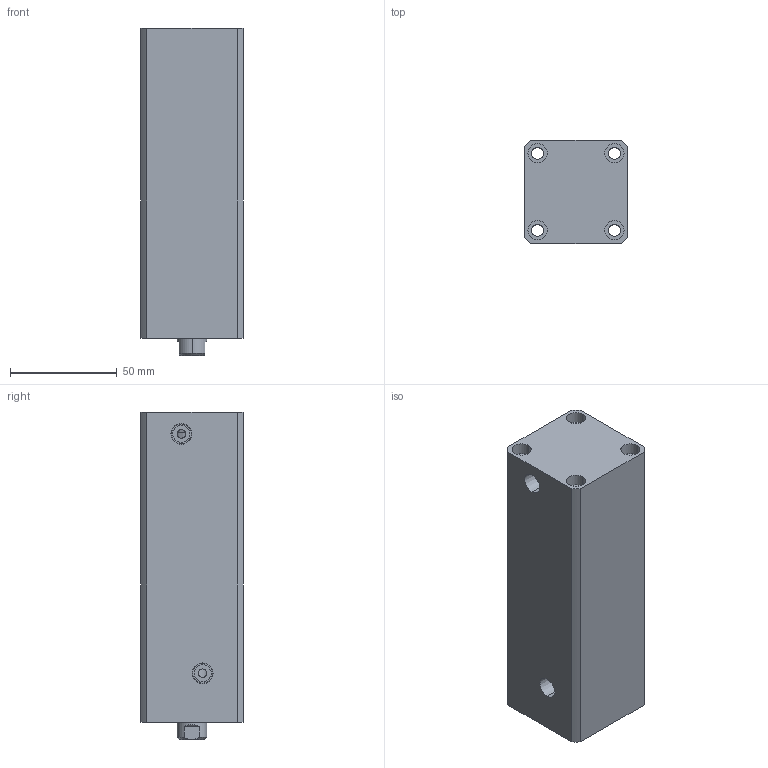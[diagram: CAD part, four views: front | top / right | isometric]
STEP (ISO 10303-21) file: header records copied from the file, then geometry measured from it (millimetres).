
FILE_DESCRIPTION (( 'STEP AP214' ), '1' );
FILE_NAME ('chtb-sd25x100n_asm.STEP', '2018-05-22T12:54:21', ( 'Windows' ), ( 'Microsoft' ), 'SwSTEP 2.0', 'SolidWorks 2015', '' );
FILE_SCHEMA (( 'AUTOMOTIVE_DESIGN' ));
Length unit declared in the file: millimetre
Products named in the file (4): CHTB-25QG; chtb-sd25x100n_asm; CHTB-SD25X100NHSG; CHTB-SD25X100NBT
Assembly tree (3 placements, depth 2):
  chtb-sd25x100n_asm
    CHTB-25QG
    CHTB-SD25X100NBT
    CHTB-SD25X100NHSG
Bounding box: 48 x 48 x 153 mm (x, y, z)
Volume: 279604.3 mm3; surface area: 67579.4 mm2
Topology: 3 solids, 3 shells, 144 faces, 377 edges, 257 vertices
Faces by surface type: cylinder 85, plane 36, cone 13, bspline 10
Entity records: 7940 total; most frequent: CARTESIAN_POINT 4299, ORIENTED_EDGE 742, DIRECTION 671, EDGE_CURVE 371, AXIS2_PLACEMENT_3D 278, VERTEX_POINT 257, EDGE_LOOP 182, ADVANCED_FACE 144
